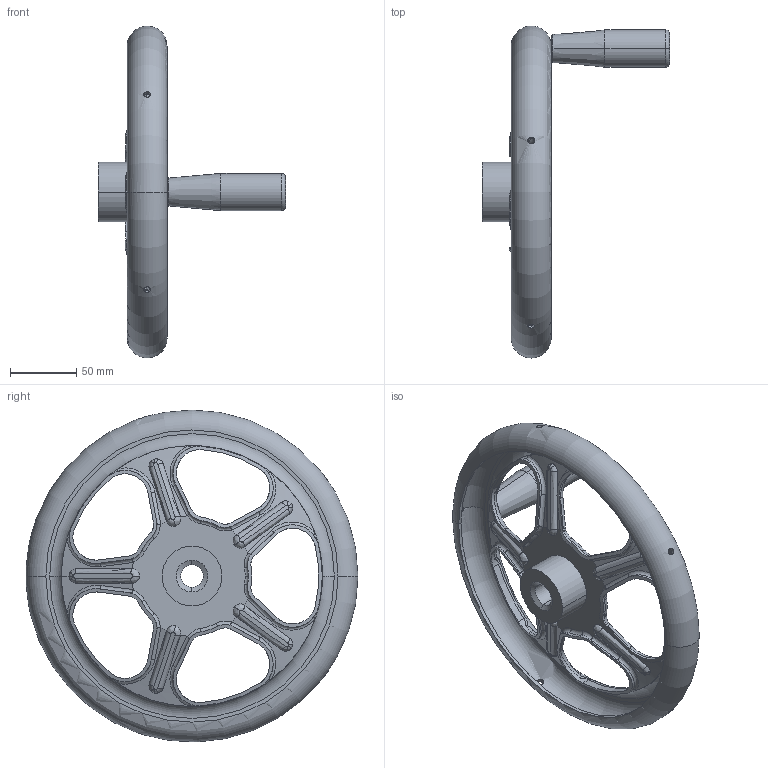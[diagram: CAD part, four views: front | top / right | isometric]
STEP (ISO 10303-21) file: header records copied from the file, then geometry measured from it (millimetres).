
FILE_DESCRIPTION (( 'STEP AP214' ), '1' );
FILE_NAME ('228-A4-250-B17-D-GS.step', '2021-02-01T13:33:59', ( '' ), ( '' ), 'SwSTEP 2.0', 'SolidWorks 2019', '' );
FILE_SCHEMA (( 'AUTOMOTIVE_DESIGN' ));
Length unit declared in the file: millimetre
Products named in the file (1): 228-A4-250-B17-D-GS
Bounding box: 141.5 x 249.97 x 249.91 mm (x, y, z)
Volume: 240667.6 mm3; surface area: 142483.9 mm2
Topology: 1 solids, 1 shells, 396 faces, 1064 edges, 659 vertices
Faces by surface type: cylinder 141, bspline 110, torus 60, plane 42, sphere 22, cone 21
Entity records: 20719 total; most frequent: CARTESIAN_POINT 11756, ORIENTED_EDGE 2092, DIRECTION 1584, EDGE_CURVE 1046, AXIS2_PLACEMENT_3D 706, VERTEX_POINT 650, B_SPLINE_CURVE_WITH_KNOTS 432, CIRCLE 420
